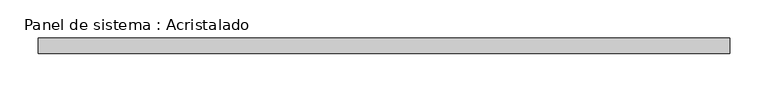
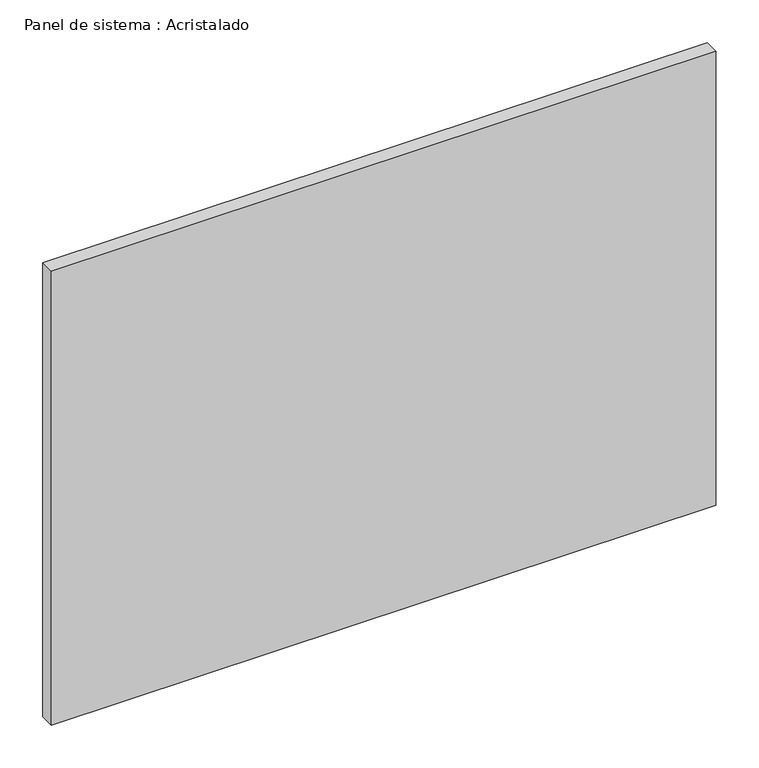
"""IFC4 building model written with IfcOpenShell, lengths in millimetres: plate geometry, Panel de sistema : Acristalado."""

from ifc_helpers import new_model, si_unit, origin, origin_with_axes, place, context, project, spatial, polyline, outline, extrude, source, transform, mapped, element, save


def panel_de_sistema_acristalado_58e72003(model_context):
    return source(origin(), model_context, "Body", "SweptSolid", [
        extrude(outline(polyline([(450.0, -10.0), (-450.0, -10.0), (-450.0, 10.0), (450.0, 10.0), (450.0, -10.0)])), origin_with_axes(), (0.0, 0.0, 1.0), 650.0),
    ])


if __name__ == "__main__":
    model = new_model("IFC4")
    model_context = context("Model", 3, world=origin())
    ifc_project = project(units=[si_unit("LENGTHUNIT", "METRE", prefix="MILLI")], contexts=[model_context])
    site = spatial("IfcSite", under=ifc_project)
    building = spatial("IfcBuilding", under=site)
    placement = place(None, origin())
    panel_de_sistema_acristalado_shape = panel_de_sistema_acristalado_58e72003(model_context)
    element("IfcPlate", 1, ObjectType="Panel de sistema : Acristalado", at=placement, inside=building, context=model_context, shape_type="MappedRepresentation", body=[
        mapped(panel_de_sistema_acristalado_shape, transform((0.0, 0.0, 0.0), x_axis=(1.0, 0.0, 0.0), y_axis=(0.0, 1.0, 0.0), z_axis=(0.0, 0.0, 1.0))),
    ])
    save(model, "model.ifc")
